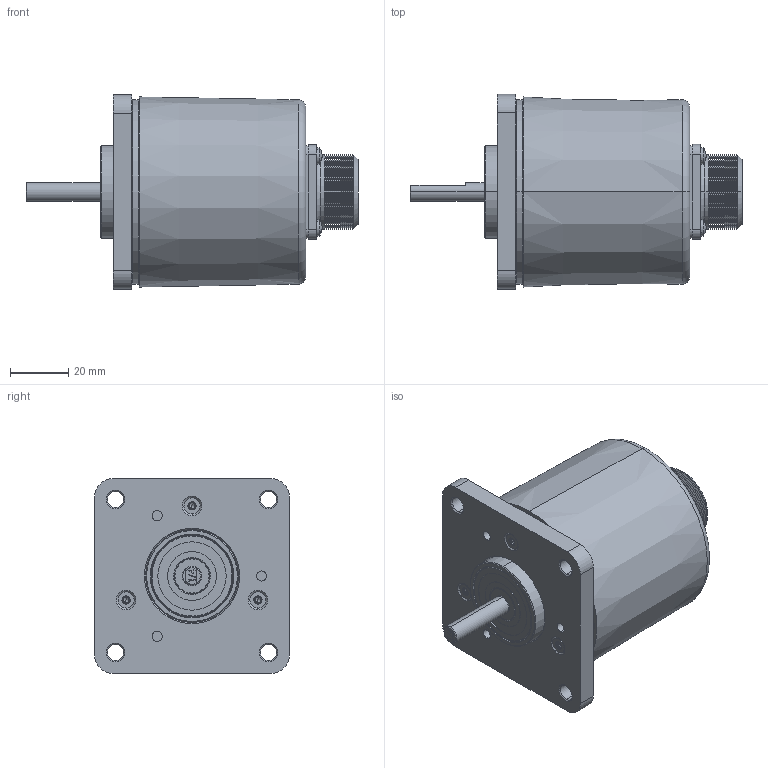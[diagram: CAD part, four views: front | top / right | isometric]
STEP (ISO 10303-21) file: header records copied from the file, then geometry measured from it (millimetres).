
FILE_DESCRIPTION (( 'STEP AP203' ), '1' );
FILE_NAME ('847H-DMXX-AFXXXXX.step', '2014-10-09T17:10:06', ( 'Windows 7 64-Bit' ), ( 'SICK Inc.' ), 'SwSTEP 2.0', 'SolidWorks 2014', '' );
FILE_SCHEMA (( 'CONFIG_CONTROL_DESIGN' ));
Length unit declared in the file: millimetre
Products named in the file (1): 847H-DMXX-AFXXXXX
Bounding box: 113.58 x 66.67 x 66.67 mm (x, y, z)
Surface area: 31758.1 mm2 (no closed solid volume)
Topology: 0 solids, 27 shells, 376 faces, 1007 edges, 641 vertices
Faces by surface type: cylinder 126, cone 112, plane 105, sphere 15, torus 14, bspline 4
Entity records: 11869 total; most frequent: CARTESIAN_POINT 2409, DIRECTION 2160, ORIENTED_EDGE 1746, EDGE_CURVE 973, AXIS2_PLACEMENT_3D 886, VERTEX_POINT 627, CIRCLE 513, EDGE_LOOP 428
